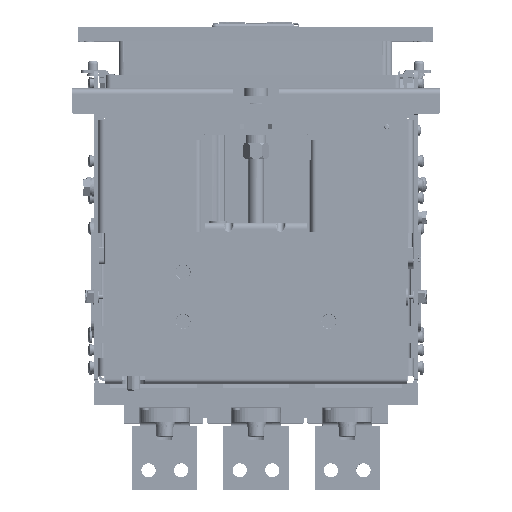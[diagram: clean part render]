
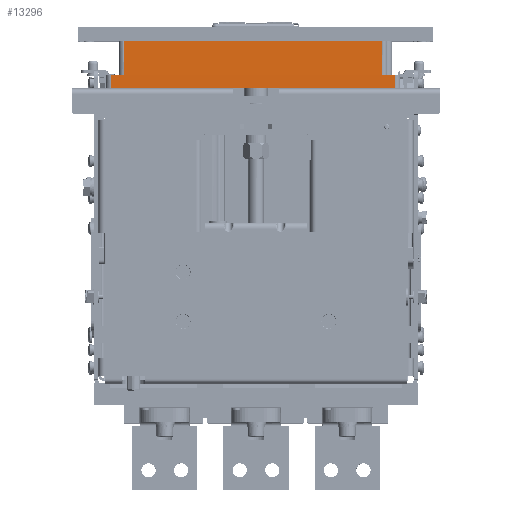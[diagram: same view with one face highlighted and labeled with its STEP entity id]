
A CAD part, top view. The second image highlights one B-rep face of the part: STEP entity #13296.
In plain terms, the highlighted planar face has unit normal (0, 0, 1) as drawn and (0, -1, 0) by its records, which use the part's own axes.
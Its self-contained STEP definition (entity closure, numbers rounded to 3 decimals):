
#1219 = CARTESIAN_POINT ( 'NONE',  ( -16.25, -232., 318. ) ) ;
#4753 = ORIENTED_EDGE ( 'NONE', *, *, #210438, .T. ) ;
#13296 = ADVANCED_FACE ( 'NONE', ( #161339 ), #69312, .T. ) ;
#13830 = CARTESIAN_POINT ( 'NONE',  ( 198.417, -232., 318. ) ) ;
#14813 = CARTESIAN_POINT ( 'NONE',  ( 191.75, -232., 335.826 ) ) ;
#18240 = ORIENTED_EDGE ( 'NONE', *, *, #139153, .F. ) ;
#20171 = VERTEX_POINT ( 'NONE', #35596 ) ;
#26480 = EDGE_CURVE ( 'NONE', #39521, #232267, #116337, .T. ) ;
#29606 = B_SPLINE_CURVE_WITH_KNOTS ( 'NONE', 3,
 ( #137899, #176815, #229944, #84756 ),
 .UNSPECIFIED., .F., .F.,
 ( 4, 4 ),
 ( 0., 1. ),
 .UNSPECIFIED. ) ;
#35596 = CARTESIAN_POINT ( 'NONE',  ( 191.75, -232., 318. ) ) ;
#39521 = VERTEX_POINT ( 'NONE', #81218 ) ;
#40412 = CARTESIAN_POINT ( 'NONE',  ( 59.75, -232., 344.738 ) ) ;
#40492 = EDGE_CURVE ( 'NONE', #75398, #94112, #29606, .T. ) ;
#46230 = VERTEX_POINT ( 'NONE', #171589 ) ;
#51628 = DIRECTION ( 'NONE',  ( 0., 0., 1. ) ) ;
#55511 = ORIENTED_EDGE ( 'NONE', *, *, #26480, .T. ) ;
#64452 = CARTESIAN_POINT ( 'NONE',  ( 201.75, -232., 308. ) ) ;
#66997 = DIRECTION ( 'NONE',  ( 0., -1., 0. ) ) ;
#68297 = CARTESIAN_POINT ( 'NONE',  ( -12.917, -232., 318. ) ) ;
#69312 = PLANE ( 'NONE',  #159583 ) ;
#70027 = CARTESIAN_POINT ( 'NONE',  ( -16.25, -232., 311.333 ) ) ;
#72321 = CARTESIAN_POINT ( 'NONE',  ( -16.25, -232., 314.667 ) ) ;
#74623 = CARTESIAN_POINT ( 'NONE',  ( 191.75, -232., 344.738 ) ) ;
#75398 = VERTEX_POINT ( 'NONE', #211339 ) ;
#81218 = CARTESIAN_POINT ( 'NONE',  ( 191.75, -231.865, 345.037 ) ) ;
#84756 = CARTESIAN_POINT ( 'NONE',  ( 201.75, -232., 318. ) ) ;
#86733 = EDGE_LOOP ( 'NONE', ( #55511, #92316, #101607, #108579, #18240, #161169, #209513, #4753 ) ) ;
#92316 = ORIENTED_EDGE ( 'NONE', *, *, #184233, .T. ) ;
#94112 = VERTEX_POINT ( 'NONE', #151214 ) ;
#100282 = CARTESIAN_POINT ( 'NONE',  ( -6.25, -232., 335.826 ) ) ;
#101607 = ORIENTED_EDGE ( 'NONE', *, *, #135003, .T. ) ;
#102346 = CARTESIAN_POINT ( 'NONE',  ( 195.083, -232., 318. ) ) ;
#107298 = EDGE_CURVE ( 'NONE', #94112, #20171, #151884, .T. ) ;
#108579 = ORIENTED_EDGE ( 'NONE', *, *, #179773, .F. ) ;
#116337 = B_SPLINE_CURVE_WITH_KNOTS ( 'NONE', 3,
 ( #74623, #147776, #40412, #166682 ),
 .UNSPECIFIED., .F., .F.,
 ( 4, 4 ),
 ( 0., 1. ),
 .UNSPECIFIED. ) ;
#117575 = CARTESIAN_POINT ( 'NONE',  ( 129.083, -232., 308. ) ) ;
#122625 = CARTESIAN_POINT ( 'NONE',  ( -9.583, -232., 318. ) ) ;
#135003 = EDGE_CURVE ( 'NONE', #222980, #157269, #138070, .T. ) ;
#136452 = CARTESIAN_POINT ( 'NONE',  ( 56.417, -232., 308. ) ) ;
#137899 = CARTESIAN_POINT ( 'NONE',  ( 201.75, -232., 308. ) ) ;
#138070 = B_SPLINE_CURVE_WITH_KNOTS ( 'NONE', 3,
 ( #231191, #122625, #68297, #172223 ),
 .UNSPECIFIED., .F., .F.,
 ( 4, 4 ),
 ( 0., 1. ),
 .UNSPECIFIED. ) ;
#139153 = EDGE_CURVE ( 'NONE', #75398, #46230, #217495, .T. ) ;
#147776 = CARTESIAN_POINT ( 'NONE',  ( 125.75, -232., 344.738 ) ) ;
#148284 = B_SPLINE_CURVE_WITH_KNOTS ( 'NONE', 3,
 ( #227766, #100282, #174635, #172298 ),
 .UNSPECIFIED., .F., .F.,
 ( 4, 4 ),
 ( 0., 1. ),
 .UNSPECIFIED. ) ;
#151214 = CARTESIAN_POINT ( 'NONE',  ( 201.75, -232., 318. ) ) ;
#151884 = B_SPLINE_CURVE_WITH_KNOTS ( 'NONE', 3,
 ( #175527, #13830, #102346, #174359 ),
 .UNSPECIFIED., .F., .F.,
 ( 4, 4 ),
 ( 0., 1. ),
 .UNSPECIFIED. ) ;
#157269 = VERTEX_POINT ( 'NONE', #1219 ) ;
#158843 = B_SPLINE_CURVE_WITH_KNOTS ( 'NONE', 3,
 ( #226136, #211945, #14813, #191880 ),
 .UNSPECIFIED., .F., .F.,
 ( 4, 4 ),
 ( 0., 1. ),
 .UNSPECIFIED. ) ;
#159583 = AXIS2_PLACEMENT_3D ( 'NONE', #233342, #66997, #51628 ) ;
#161169 = ORIENTED_EDGE ( 'NONE', *, *, #40492, .T. ) ;
#161339 = FACE_OUTER_BOUND ( 'NONE', #86733, .T. ) ;
#166682 = CARTESIAN_POINT ( 'NONE',  ( -6.25, -232., 344.738 ) ) ;
#171177 = CARTESIAN_POINT ( 'NONE',  ( -6.25, -232., 318. ) ) ;
#171589 = CARTESIAN_POINT ( 'NONE',  ( -16.25, -232., 308. ) ) ;
#172223 = CARTESIAN_POINT ( 'NONE',  ( -16.25, -232., 318. ) ) ;
#172298 = CARTESIAN_POINT ( 'NONE',  ( -6.25, -232., 318. ) ) ;
#173047 = CARTESIAN_POINT ( 'NONE',  ( -16.25, -232., 308. ) ) ;
#174359 = CARTESIAN_POINT ( 'NONE',  ( 191.75, -232., 318. ) ) ;
#174635 = CARTESIAN_POINT ( 'NONE',  ( -6.25, -232., 326.913 ) ) ;
#175527 = CARTESIAN_POINT ( 'NONE',  ( 201.75, -232., 318. ) ) ;
#176815 = CARTESIAN_POINT ( 'NONE',  ( 201.75, -232., 311.333 ) ) ;
#179761 = CARTESIAN_POINT ( 'NONE',  ( -16.25, -232., 318. ) ) ;
#179773 = EDGE_CURVE ( 'NONE', #46230, #157269, #226629, .T. ) ;
#184233 = EDGE_CURVE ( 'NONE', #232267, #222980, #148284, .T. ) ;
#191880 = CARTESIAN_POINT ( 'NONE',  ( 191.75, -232., 344.738 ) ) ;
#209513 = ORIENTED_EDGE ( 'NONE', *, *, #107298, .T. ) ;
#210438 = EDGE_CURVE ( 'NONE', #20171, #39521, #158843, .T. ) ;
#211339 = CARTESIAN_POINT ( 'NONE',  ( 201.75, -232., 308. ) ) ;
#211945 = CARTESIAN_POINT ( 'NONE',  ( 191.75, -232., 326.913 ) ) ;
#216347 = CARTESIAN_POINT ( 'NONE',  ( -16.25, -232., 308. ) ) ;
#217495 = B_SPLINE_CURVE_WITH_KNOTS ( 'NONE', 3,
 ( #64452, #117575, #136452, #173047 ),
 .UNSPECIFIED., .F., .F.,
 ( 4, 4 ),
 ( 0., 1. ),
 .UNSPECIFIED. ) ;
#222980 = VERTEX_POINT ( 'NONE', #171177 ) ;
#226136 = CARTESIAN_POINT ( 'NONE',  ( 191.75, -232., 318. ) ) ;
#226629 = B_SPLINE_CURVE_WITH_KNOTS ( 'NONE', 3,
 ( #216347, #70027, #72321, #179761 ),
 .UNSPECIFIED., .F., .F.,
 ( 4, 4 ),
 ( 0., 1. ),
 .UNSPECIFIED. ) ;
#227766 = CARTESIAN_POINT ( 'NONE',  ( -6.25, -232., 344.738 ) ) ;
#228240 = CARTESIAN_POINT ( 'NONE',  ( -6.25, -231.865, 345.037 ) ) ;
#229944 = CARTESIAN_POINT ( 'NONE',  ( 201.75, -232., 314.667 ) ) ;
#231191 = CARTESIAN_POINT ( 'NONE',  ( -6.25, -232., 318. ) ) ;
#232267 = VERTEX_POINT ( 'NONE', #228240 ) ;
#233342 = CARTESIAN_POINT ( 'NONE',  ( 92.75, -232., 327.5 ) ) ;
